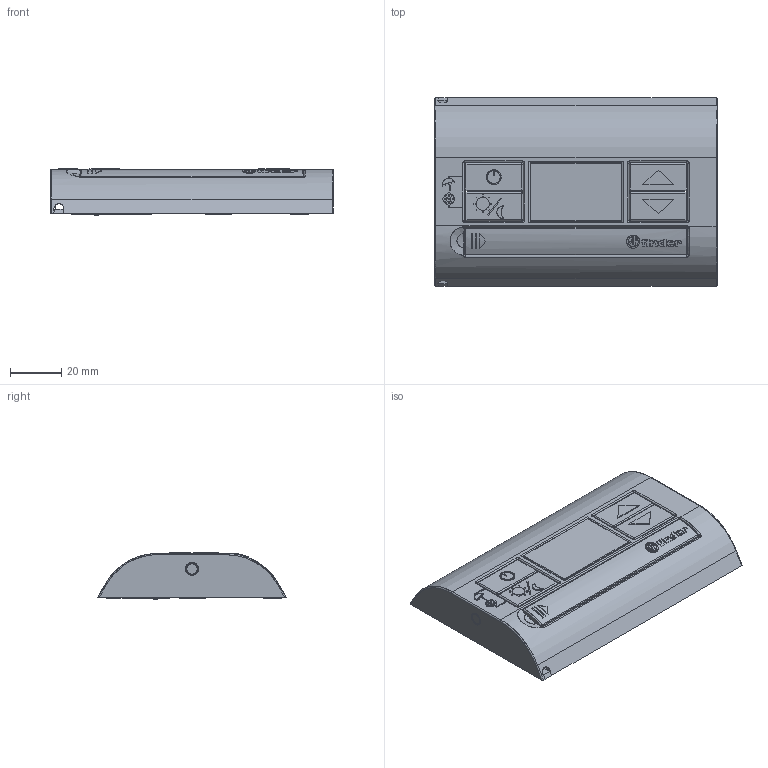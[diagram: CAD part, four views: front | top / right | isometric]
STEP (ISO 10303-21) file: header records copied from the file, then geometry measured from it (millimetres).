
FILE_DESCRIPTION(('STEP AP214'),'2;1');
FILE_NAME('1T31.stp','2012-03-21T14:22:33',(''),(''),'2007.1.106','THINKDESIGN','');
FILE_SCHEMA(('AUTOMOTIVE_DESIGN'));
Length unit declared in the file: millimetre
Products named in the file (1): top
Bounding box: 110 x 73.3 x 18.1 mm (x, y, z)
Surface area: 25874.4 mm2 (no closed solid volume)
Topology: 0 solids, 0 shells, 684 faces, 3644 edges, 3621 vertices
Faces by surface type: plane 455, cylinder 139, bspline 90
Full cylindrical faces by diameter (mm): 4.5 x1, 5 x3, 5.2 x2, 5.8 x1
Entity records: 34000 total; most frequent: CARTESIAN_POINT 13737, DIRECTION 4327, COMPOSITE_CURVE_SEGMENT 3623, TRIMMED_CURVE 2856, VECTOR 2579, LINE 2579, AXIS2_PLACEMENT_3D 874, OUTER_BOUNDARY_CURVE 684
